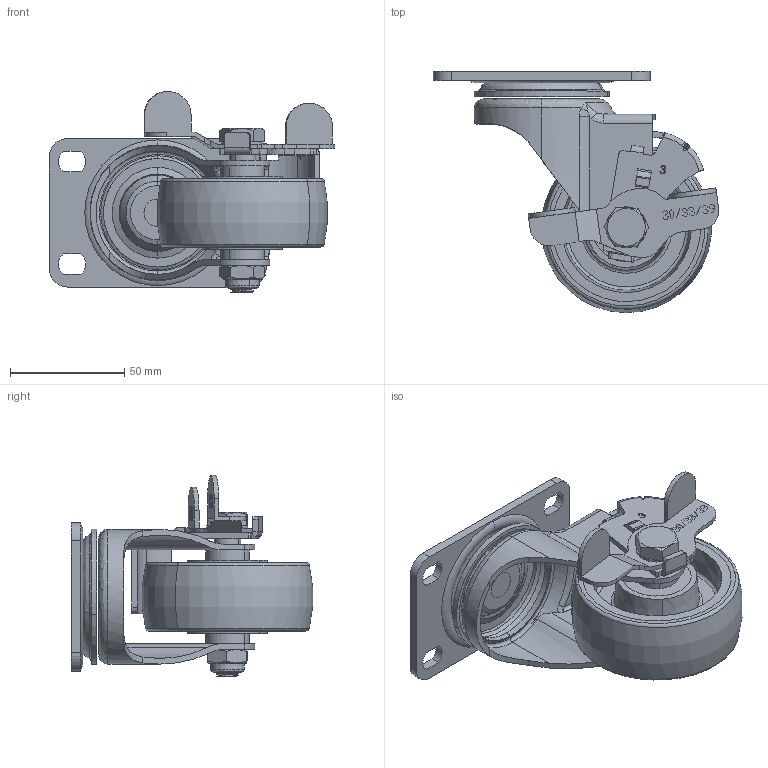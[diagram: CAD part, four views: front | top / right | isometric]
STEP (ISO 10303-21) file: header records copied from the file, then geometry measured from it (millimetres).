
FILE_DESCRIPTION (( 'STEP AP203' ), '1' );
FILE_NAME ('11390300604033.STEP', '2025-03-24T01:14:36', ( '20241006' ), ( '' ), 'SwSTEP 2.0', 'SolidWorks 2021', '' );
FILE_SCHEMA (( 'CONFIG_CONTROL_DESIGN' ));
Length unit declared in the file: millimetre
Products named in the file (12): 3''''(6001¿×)AQPUÝ†(C)_îAÔO; 213018030002_30________L__-_____20160118__A_O.STEP.STEP; 39_________T___3__A_O.STEP.STEP; 11390300604033; ______A_O.STEP.STEP; 39_________P_4__A_O.STEP.STEP; ___A______A_O.STEP.STEP; 3''''''''''''''''39_______x____A_O.STEP.STEP; 3___o___1__A_O.STEP.STEP; 39&30________.STEP.STEP; M10_2_2__A_O.STEP.STEP; __________A_O.STEP.STEP
Assembly tree (11 placements, depth 3):
  11390300604033
    3''''''''''''''''39_______x____A_O.STEP.STEP
      ___A______A_O.STEP.STEP
      __________A_O.STEP.STEP
      213018030002_30________L__-_____20160118__A_O.STEP.STEP
      39&30________.STEP.STEP
    3___o___1__A_O.STEP.STEP
    39_________P_4__A_O.STEP.STEP
    39_________T___3__A_O.STEP.STEP
    M10_2_2__A_O.STEP.STEP
    ______A_O.STEP.STEP
    3''''(6001¿×)AQPUÝ†(C)_îAÔO
Bounding box: 125.06 x 105.66 x 88.2 mm (x, y, z)
Volume: 158940.1 mm3; surface area: 74811.9 mm2
Topology: 10 solids, 10 shells, 777 faces, 2049 edges, 1334 vertices
Faces by surface type: plane 430, cylinder 165, bspline 110, cone 38, torus 32, sphere 2
Entity records: 34333 total; most frequent: CARTESIAN_POINT 14596, ORIENTED_EDGE 4086, DIRECTION 3468, EDGE_CURVE 2043, VERTEX_POINT 1334, VECTOR 1272, LINE 1272, AXIS2_PLACEMENT_3D 1098
